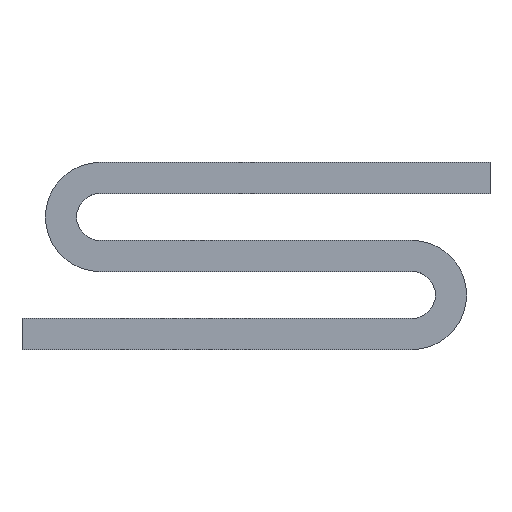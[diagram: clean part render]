
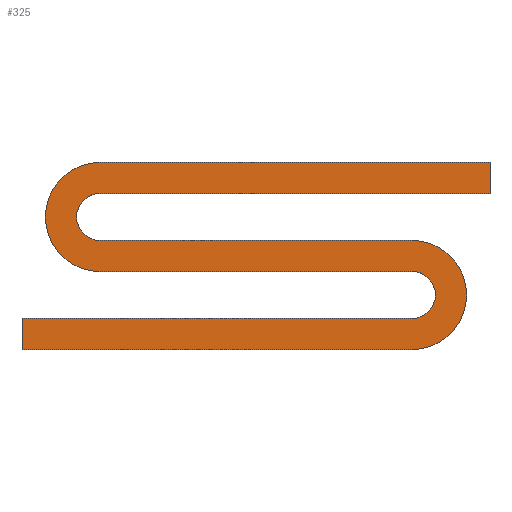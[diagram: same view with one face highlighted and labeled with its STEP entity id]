
A CAD part, top view. The second image highlights one B-rep face of the part: STEP entity #325.
In plain terms, the highlighted planar face has unit normal (0, 0, 1).
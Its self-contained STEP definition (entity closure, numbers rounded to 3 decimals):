
#32 = VERTEX_POINT('',#33);
#33 = CARTESIAN_POINT('',(20.,36.,11.));
#39 = EDGE_CURVE('',#32,#40,#42,.T.);
#40 = VERTEX_POINT('',#41);
#41 = CARTESIAN_POINT('',(100.,36.,11.));
#42 = LINE('',#43,#44);
#43 = CARTESIAN_POINT('',(20.,36.,11.));
#44 = VECTOR('',#45,1.);
#45 = DIRECTION('',(1.,0.,-0.));
#188 = VERTEX_POINT('',#189);
#189 = CARTESIAN_POINT('',(120.,56.,11.));
#197 = VERTEX_POINT('',#198);
#198 = CARTESIAN_POINT('',(120.,64.,11.));
#204 = EDGE_CURVE('',#188,#197,#205,.T.);
#205 = LINE('',#206,#207);
#206 = CARTESIAN_POINT('',(120.,56.,11.));
#207 = VECTOR('',#208,1.);
#208 = DIRECTION('',(-0.,1.,0.));
#220 = VERTEX_POINT('',#221);
#221 = CARTESIAN_POINT('',(20.,44.,11.));
#227 = EDGE_CURVE('',#220,#228,#230,.T.);
#228 = VERTEX_POINT('',#229);
#229 = CARTESIAN_POINT('',(100.,44.,11.));
#230 = LINE('',#231,#232);
#231 = CARTESIAN_POINT('',(20.,44.,11.));
#232 = VECTOR('',#233,1.);
#233 = DIRECTION('',(1.,0.,-0.));
#249 = EDGE_CURVE('',#250,#220,#252,.T.);
#250 = VERTEX_POINT('',#251);
#251 = CARTESIAN_POINT('',(20.,56.,11.));
#252 = CIRCLE('',#253,6.);
#253 = AXIS2_PLACEMENT_3D('',#254,#255,#256);
#254 = CARTESIAN_POINT('',(20.,50.,11.));
#255 = DIRECTION('',(0.,0.,1.));
#256 = DIRECTION('',(1.,0.,-0.));
#275 = VERTEX_POINT('',#276);
#276 = CARTESIAN_POINT('',(0.,16.,11.));
#284 = VERTEX_POINT('',#285);
#285 = CARTESIAN_POINT('',(0.,24.,11.));
#291 = EDGE_CURVE('',#275,#284,#292,.T.);
#292 = LINE('',#293,#294);
#293 = CARTESIAN_POINT('',(0.,16.,11.));
#294 = VECTOR('',#295,1.);
#295 = DIRECTION('',(-0.,1.,0.));
#307 = VERTEX_POINT('',#308);
#308 = CARTESIAN_POINT('',(100.,16.,11.));
#314 = EDGE_CURVE('',#275,#307,#315,.T.);
#315 = LINE('',#316,#317);
#316 = CARTESIAN_POINT('',(20.,16.,11.));
#317 = VECTOR('',#318,1.);
#318 = DIRECTION('',(1.,0.,-0.));
#325 = ADVANCED_FACE('',(#326),#404,.T.);
#326 = FACE_BOUND('',#327,.T.);
#327 = EDGE_LOOP('',(#328,#336,#337,#338,#347,#354,#355,#356,#362,#363,
    #371,#380,#387,#388,#397));
#328 = ORIENTED_EDGE('',*,*,#329,.F.);
#329 = EDGE_CURVE('',#284,#330,#332,.T.);
#330 = VERTEX_POINT('',#331);
#331 = CARTESIAN_POINT('',(100.,24.,11.));
#332 = LINE('',#333,#334);
#333 = CARTESIAN_POINT('',(20.,24.,11.));
#334 = VECTOR('',#335,1.);
#335 = DIRECTION('',(1.,0.,-0.));
#336 = ORIENTED_EDGE('',*,*,#291,.F.);
#337 = ORIENTED_EDGE('',*,*,#314,.T.);
#338 = ORIENTED_EDGE('',*,*,#339,.T.);
#339 = EDGE_CURVE('',#307,#340,#342,.T.);
#340 = VERTEX_POINT('',#341);
#341 = CARTESIAN_POINT('',(114.,30.,11.));
#342 = CIRCLE('',#343,14.);
#343 = AXIS2_PLACEMENT_3D('',#344,#345,#346);
#344 = CARTESIAN_POINT('',(100.,30.,11.));
#345 = DIRECTION('',(0.,0.,1.));
#346 = DIRECTION('',(1.,0.,-0.));
#347 = ORIENTED_EDGE('',*,*,#348,.T.);
#348 = EDGE_CURVE('',#340,#228,#349,.T.);
#349 = CIRCLE('',#350,14.);
#350 = AXIS2_PLACEMENT_3D('',#351,#352,#353);
#351 = CARTESIAN_POINT('',(100.,30.,11.));
#352 = DIRECTION('',(0.,0.,1.));
#353 = DIRECTION('',(1.,0.,-0.));
#354 = ORIENTED_EDGE('',*,*,#227,.F.);
#355 = ORIENTED_EDGE('',*,*,#249,.F.);
#356 = ORIENTED_EDGE('',*,*,#357,.T.);
#357 = EDGE_CURVE('',#250,#188,#358,.T.);
#358 = LINE('',#359,#360);
#359 = CARTESIAN_POINT('',(20.,56.,11.));
#360 = VECTOR('',#361,1.);
#361 = DIRECTION('',(1.,0.,-0.));
#362 = ORIENTED_EDGE('',*,*,#204,.T.);
#363 = ORIENTED_EDGE('',*,*,#364,.F.);
#364 = EDGE_CURVE('',#365,#197,#367,.T.);
#365 = VERTEX_POINT('',#366);
#366 = CARTESIAN_POINT('',(20.,64.,11.));
#367 = LINE('',#368,#369);
#368 = CARTESIAN_POINT('',(100.,64.,11.));
#369 = VECTOR('',#370,1.);
#370 = DIRECTION('',(1.,0.,-0.));
#371 = ORIENTED_EDGE('',*,*,#372,.T.);
#372 = EDGE_CURVE('',#365,#373,#375,.T.);
#373 = VERTEX_POINT('',#374);
#374 = CARTESIAN_POINT('',(6.,50.,11.));
#375 = CIRCLE('',#376,14.);
#376 = AXIS2_PLACEMENT_3D('',#377,#378,#379);
#377 = CARTESIAN_POINT('',(20.,50.,11.));
#378 = DIRECTION('',(0.,0.,1.));
#379 = DIRECTION('',(1.,0.,-0.));
#380 = ORIENTED_EDGE('',*,*,#381,.T.);
#381 = EDGE_CURVE('',#373,#32,#382,.T.);
#382 = CIRCLE('',#383,14.);
#383 = AXIS2_PLACEMENT_3D('',#384,#385,#386);
#384 = CARTESIAN_POINT('',(20.,50.,11.));
#385 = DIRECTION('',(0.,0.,1.));
#386 = DIRECTION('',(1.,0.,-0.));
#387 = ORIENTED_EDGE('',*,*,#39,.T.);
#388 = ORIENTED_EDGE('',*,*,#389,.F.);
#389 = EDGE_CURVE('',#390,#40,#392,.T.);
#390 = VERTEX_POINT('',#391);
#391 = CARTESIAN_POINT('',(106.,30.,11.));
#392 = CIRCLE('',#393,6.);
#393 = AXIS2_PLACEMENT_3D('',#394,#395,#396);
#394 = CARTESIAN_POINT('',(100.,30.,11.));
#395 = DIRECTION('',(0.,0.,1.));
#396 = DIRECTION('',(1.,0.,-0.));
#397 = ORIENTED_EDGE('',*,*,#398,.F.);
#398 = EDGE_CURVE('',#330,#390,#399,.T.);
#399 = CIRCLE('',#400,6.);
#400 = AXIS2_PLACEMENT_3D('',#401,#402,#403);
#401 = CARTESIAN_POINT('',(100.,30.,11.));
#402 = DIRECTION('',(0.,0.,1.));
#403 = DIRECTION('',(1.,0.,-0.));
#404 = PLANE('',#405);
#405 = AXIS2_PLACEMENT_3D('',#406,#407,#408);
#406 = CARTESIAN_POINT('',(60.047,39.991,11.));
#407 = DIRECTION('',(0.,0.,1.));
#408 = DIRECTION('',(1.,0.,-0.));
